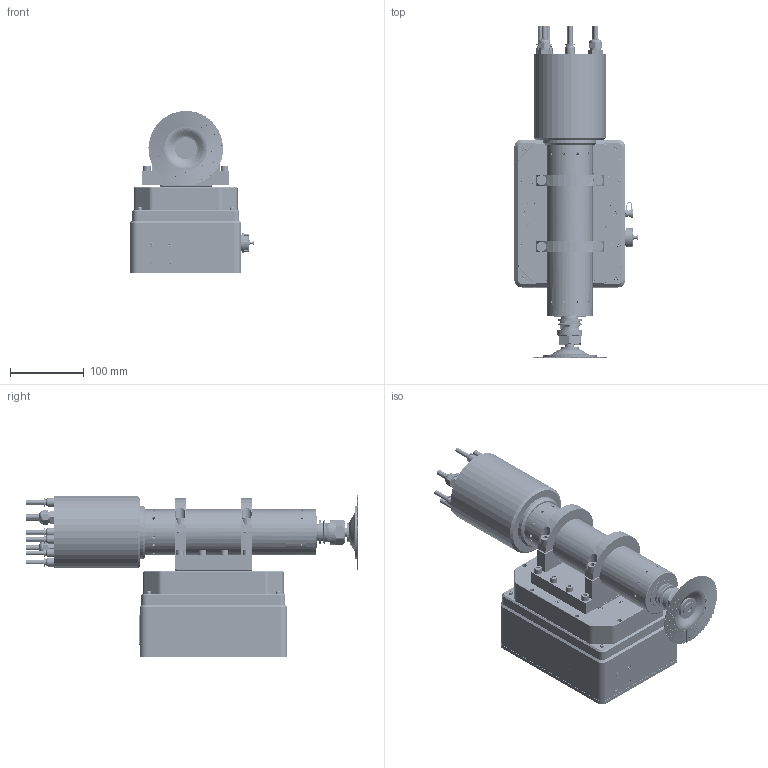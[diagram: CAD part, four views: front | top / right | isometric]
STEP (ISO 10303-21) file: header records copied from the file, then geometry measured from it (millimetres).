
FILE_DESCRIPTION (( 'STEP AP214' ), '1' );
FILE_NAME ('1¡¢1.5KWµç¶¯ÖáÓë500N¸¡¶¯Ä£¿é£¨Ê', '2025-09-30T01:16:30', ( 'selfweld_user' ), ( '' ), 'SwSTEP 2.0', 'SolidWorks 2022', '' );
FILE_SCHEMA (( 'AUTOMOTIVE_DESIGN' ));
Length unit declared in the file: millimetre
Products named in the file (14): GB／T70．1-2000内六角圆柱头螺钉M5×20·_Y_¤M5_á20_¤_Y__èM5_¨￠20; 1.5KW电动轴与500N浮动模块连接件2_￡_éá__ó_t2__ê_¨|¨￠__¨__t2; GB／T70．1-2000内六角圆柱头螺钉M6×20·_Y_¤M6_á20_¤_Y__èM6_¨￠20; 1.5KW电动轴与500N浮动模块连接件3_￡_éá__ó_t3__ê_¨|¨￠__¨__t3; 1.5KW（HYC62F）电动轴__ˉ_á___￥_¨￠; 1、1.5KW电动轴与500N浮动模块（竖装）装配体_é￡¨êú×°￡_×°__ì__¨|_ê_§¨o¨2_á___ê__á____¨__; GB／T70．1-2000内六角圆柱头螺钉M8×25·_Y_¤M8_á25_¤_Y__èM8_¨￠25; BT20-035MS絮梟㊣迆_角“2; 眻噤3mm酗20mm种隊m_迆_∟m_“2__豕; 啃珔え______; ECM1A-500-002-000 楷冞奻漆2025071107110711; GB／T859-1987轻型弹簧垫圈(装配)8×1．6°__)8_á1￡_6____)8_¨￠1_ê_6; 1.5KW电动轴与500N浮动模块连接件1_￡_éá__ó_t1__ê_¨|¨￠__¨__t1; GB／T859-1987轻型弹簧垫圈(装配)6×1．3°__)6_á1￡_3____)6_¨￠1_ê_3
Assembly tree (40 placements, depth 2):
  1、1.5KW电动轴与500N浮动模块（竖装）装配体_é￡¨êú×°￡_×°__ì__¨|_ê_§¨o¨2_á___ê__á____¨__
    1.5KW（HYC62F）电动轴__ˉ_á___￥_¨￠
    BT20-035MS絮梟㊣迆_角“2
    1.5KW电动轴与500N浮动模块连接件1_￡_éá__ó_t1__ê_¨|¨￠__¨__t1
    1.5KW电动轴与500N浮动模块连接件2_￡_éá__ó_t2__ê_¨|¨￠__¨__t2
    1.5KW电动轴与500N浮动模块连接件3_￡_éá__ó_t3__ê_¨|¨￠__¨__t3
    GB／T70．1-2000内六角圆柱头螺钉M8×25·_Y_¤M8_á25_¤_Y__èM8_¨￠25  x4
    GB／T70．1-2000内六角圆柱头螺钉M6×20·_Y_¤M6_á20_¤_Y__èM6_¨￠20  x8
    GB／T859-1987轻型弹簧垫圈(装配)6×1．3°__)6_á1￡_3____)6_¨￠1_ê_3  x8
    GB／T859-1987轻型弹簧垫圈(装配)8×1．6°__)8_á1￡_6____)8_¨￠1_ê_6  x5
    ECM1A-500-002-000 楷冞奻漆2025071107110711
    GB／T70．1-2000内六角圆柱头螺钉M5×20·_Y_¤M5_á20_¤_Y__èM5_¨￠20  x6
    眻噤3mm酗20mm种隊m_迆_∟m_“2__豕  x2
    啃珔え______
Bounding box: 166.81 x 449.07 x 219.73 mm (x, y, z)
Volume: 1427877 mm3; surface area: 755105.4 mm2
Topology: 184 solids, 214 shells, 7139 faces, 17080 edges, 10571 vertices
Faces by surface type: plane 3383, cylinder 2029, cone 1072, torus 401, bspline 236, sphere 18
Entity records: 244675 total; most frequent: CARTESIAN_POINT 67709, DIRECTION 33159, ORIENTED_EDGE 31390, EDGE_CURVE 15866, AXIS2_PLACEMENT_3D 12084, VERTEX_POINT 9986, LINE 8991, VECTOR 8991
